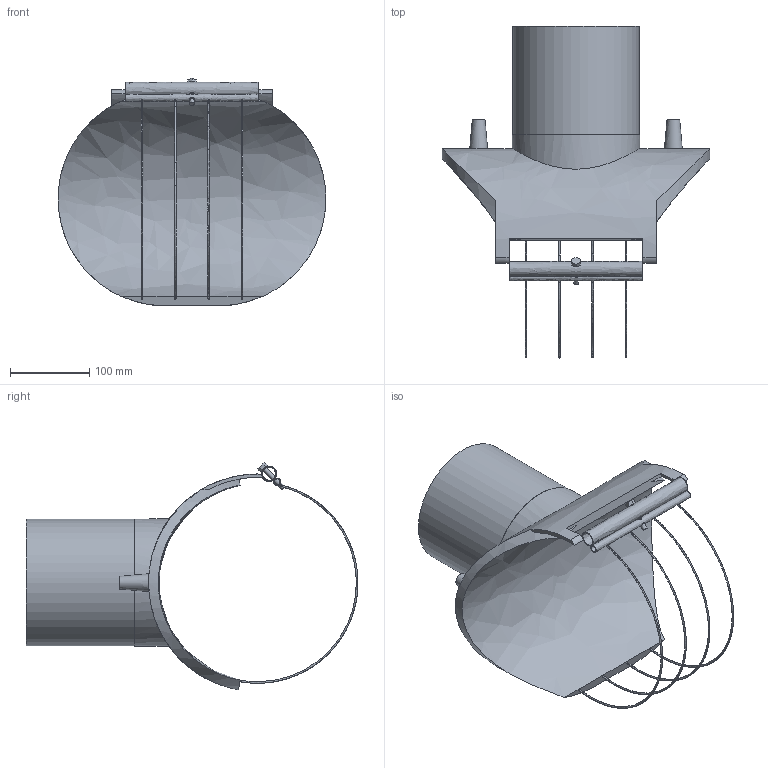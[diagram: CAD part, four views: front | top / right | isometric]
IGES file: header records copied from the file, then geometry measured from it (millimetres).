
Global section: file name: 4958X4250160T; native system: Autodesk Inventor 2021; preprocessor: unknown; author: KIM; date: 20250507.121547; units: millimetre
Bounding box: 338 x 419 x 287.33 mm (x, y, z)
Volume: 2370983.1 mm3; surface area: 419732.1 mm2
Topology: 1 solids, 1 shells, 61 faces, 183 edges, 124 vertices
Faces by surface type: bspline 61
